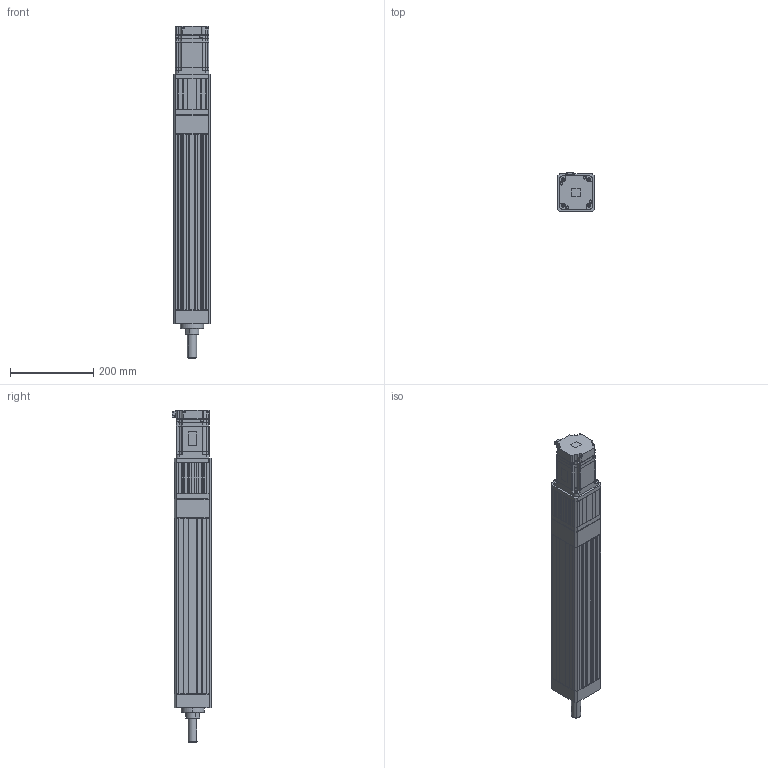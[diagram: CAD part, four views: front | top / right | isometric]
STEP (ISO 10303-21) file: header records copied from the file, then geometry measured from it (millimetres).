
FILE_DESCRIPTION (( 'STEP AP203' ), '1' );
FILE_NAME ('ANS090R-S300-05(10)(20)-W75-M.STEP', '2019-03-02T10:57:37', ( 'user' ), ( '' ), 'SwSTEP 2.0', 'SolidWorks 2013', '' );
FILE_SCHEMA (( 'CONFIG_CONTROL_DESIGN' ));
Length unit declared in the file: millimetre
Products named in the file (4): ANS090R S300 VER2; SGMJV_08A_A21; ANS090 ROD ST300-M; ANS090R-S300-05(10)(20)-W75-M
Assembly tree (3 placements, depth 2):
  ANS090R-S300-05(10)(20)-W75-M
    ANS090R S300 VER2
    SGMJV_08A_A21
    ANS090 ROD ST300-M
Bounding box: 90 x 93.8 x 796.1 mm (x, y, z)
Volume: 3316244.9 mm3; surface area: 562181.7 mm2
Topology: 3 solids, 3 shells, 1438 faces, 3878 edges, 2504 vertices
Faces by surface type: plane 930, cylinder 404, cone 100, bspline 4
Entity records: 45220 total; most frequent: CARTESIAN_POINT 8496, ORIENTED_EDGE 7708, DIRECTION 7414, EDGE_CURVE 3854, LINE 2890, VECTOR 2890, VERTEX_POINT 2504, AXIS2_PLACEMENT_3D 2262
